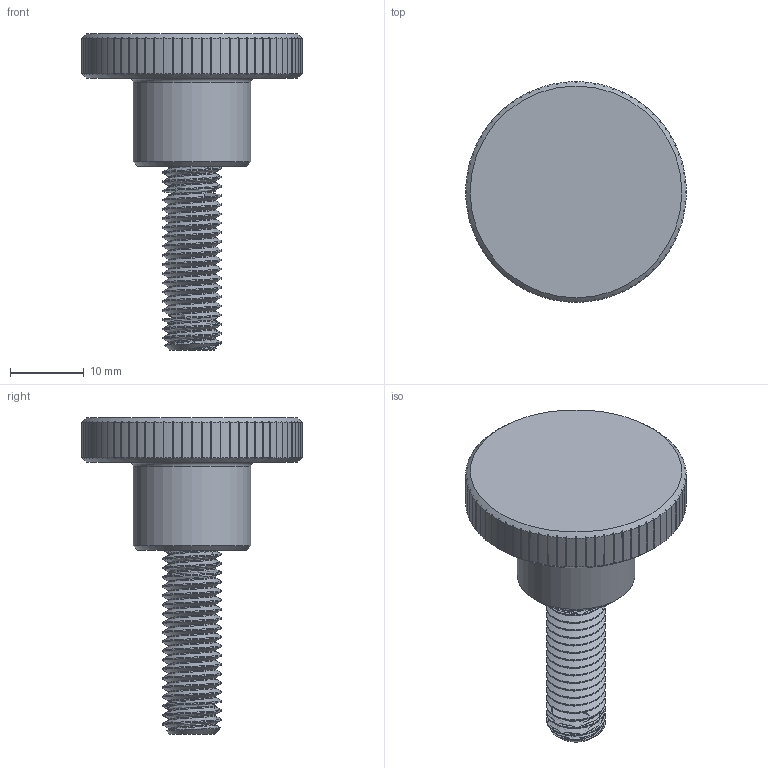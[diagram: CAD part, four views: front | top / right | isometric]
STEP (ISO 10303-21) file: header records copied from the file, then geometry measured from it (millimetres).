
FILE_DESCRIPTION(/* description */ ('M8X25 KNURLED THUMB SCREW'),/* implementation_level */ '2;1');
FILE_NAME(/* name */ 'Z:\WEBSITE\DREAMWEAVER\MiniTec\Products\Screw_And_Nuts\Catalog_Pages\Thumb_Screws_Hand_Knobs\CAD\STEP\21.9978_25 M8X25 KNURLED THUMB SCREW.stp',/* time_stamp */ '2018-12-17T14:25:38-05:00',/* author */ ('amoles'),/* organization */ (''),/* preprocessor_version */ 'ST-DEVELOPER v17',/* originating_system */ 'Autodesk Inventor 2018',/* authorisation */ '');
FILE_SCHEMA (('CONFIG_CONTROL_DESIGN'));
Length unit declared in the file: millimetre
Products named in the file (1): 21.9978/25 
Bounding box: 30 x 30 x 43 mm (x, y, z)
Volume: 7626.2 mm3; surface area: 3545.2 mm2
Topology: 1 solids, 1 shells, 341 faces, 1058 edges, 721 vertices
Faces by surface type: cylinder 186, plane 148, cone 4, bspline 2, torus 1
Full cylindrical faces by diameter (mm): 6.376 x20, 8 x18, 16 x1
Entity records: 14265 total; most frequent: CARTESIAN_POINT 4825, ORIENTED_EDGE 2116, DIRECTION 1924, EDGE_CURVE 1058, VERTEX_POINT 721, AXIS2_PLACEMENT_3D 652, LINE 620, VECTOR 620
